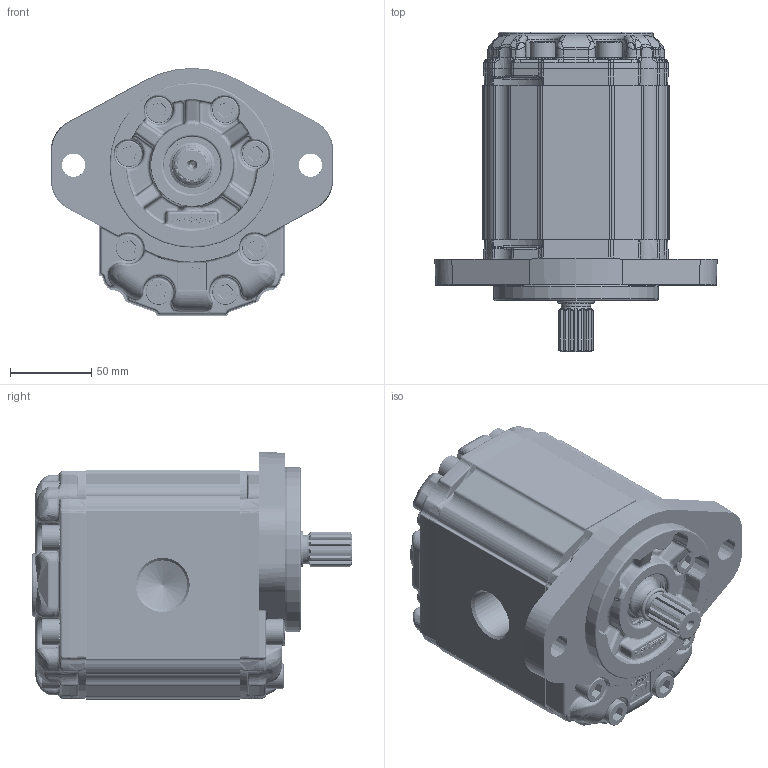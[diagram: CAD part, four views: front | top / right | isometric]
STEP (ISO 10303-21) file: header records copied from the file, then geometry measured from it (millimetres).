
FILE_DESCRIPTION(/* description */ ('Unknown'),/* implementation_level */ '2;1');
FILE_NAME(/* name */ 'X3P8132IEDA',/* time_stamp */ '2023-09-28T16:18:08+02:00',/* author */ ('Unknown'),/* organization */ ('Unknown'),/* preprocessor_version */ 'ST-DEVELOPER v16.7',/* originating_system */ 'Solid Edge',/* authorisation */ 'Unknown');
FILE_SCHEMA (('AUTOMOTIVE_DESIGN {1 0 10303 214 3 1 1}'));
Products named in the file (5): X3P8132IEDA; X3P32; 3I; X3EDH95; XP331-A
Assembly tree (4 placements, depth 2):
  X3P8132IEDA
    X3P32
    3I
    X3EDH95
    XP331-A
Bounding box: 174 x 197.2 x 153 mm (x, y, z)
Volume: 2235894.8 mm3; surface area: 227428.6 mm2
Topology: 4 solids, 5 shells, 4716 faces, 14354 edges, 8949 vertices
Faces by surface type: cylinder 1847, plane 1272, bspline 1254, torus 172, cone 145, sphere 26
Full cylindrical faces by diameter (mm): 2 x2, 10 x16, 10.35 x30, 10.5 x1, 14.314 x1, 14.315 x1, 15.8 x16, 16 x16, 18 x2, 24.117 x2, 24.98 x1, 25 x2, 25.968 x1, 28.16 x1, 30.291 x1, 31 x1, 31.293 x1, 32.742 x1, 34.956 x1, 35 x1, 35.2 x1, 37 x1, 101.6 x1
Entity records: 348366 total; most frequent: CARTESIAN_POINT 199865, ORIENTED_EDGE 27792, DIRECTION 19817, EDGE_CURVE 13896, VERTEX_POINT 8809, AXIS2_PLACEMENT_3D 7499, FACE_BOUND 5151, EDGE_LOOP 5147
